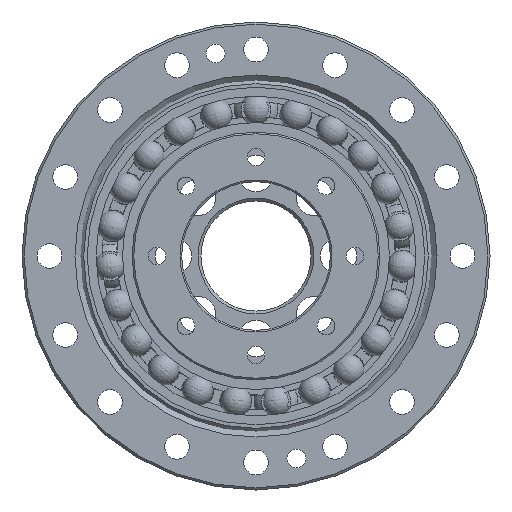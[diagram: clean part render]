
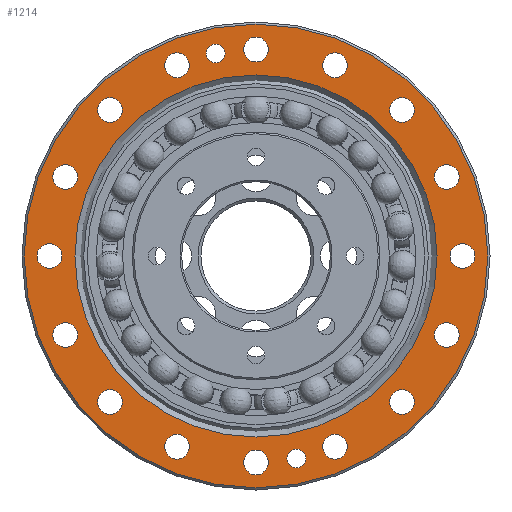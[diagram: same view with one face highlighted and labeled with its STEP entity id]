
A CAD part, left-side view. The second image highlights one B-rep face of the part: STEP entity #1214.
In plain terms, the highlighted planar face has unit normal (-1, 0, 0).
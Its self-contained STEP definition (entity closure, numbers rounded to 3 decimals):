
#1017=PLANE('',#5334);
#1214=ADVANCED_FACE('',(#1443,#1444,#1445,#1446,#1447,#1448,#1449,#1450,
#1451,#1452,#1453,#1454,#1455,#1456,#1457,#1458,#1459,#1460,#1461,#1462),
#1017,.F.);
#1443=FACE_BOUND('',#1899,.T.);
#1444=FACE_BOUND('',#1900,.T.);
#1445=FACE_BOUND('',#1901,.T.);
#1446=FACE_BOUND('',#1902,.T.);
#1447=FACE_BOUND('',#1903,.T.);
#1448=FACE_BOUND('',#1904,.T.);
#1449=FACE_BOUND('',#1905,.T.);
#1450=FACE_BOUND('',#1906,.T.);
#1451=FACE_BOUND('',#1907,.T.);
#1452=FACE_BOUND('',#1908,.T.);
#1453=FACE_BOUND('',#1909,.T.);
#1454=FACE_BOUND('',#1910,.T.);
#1455=FACE_BOUND('',#1911,.T.);
#1456=FACE_BOUND('',#1912,.T.);
#1457=FACE_BOUND('',#1913,.T.);
#1458=FACE_BOUND('',#1914,.T.);
#1459=FACE_BOUND('',#1915,.T.);
#1460=FACE_BOUND('',#1916,.T.);
#1461=FACE_BOUND('',#1917,.T.);
#1462=FACE_BOUND('',#1918,.T.);
#1899=EDGE_LOOP('',(#3171));
#1900=EDGE_LOOP('',(#3172));
#1901=EDGE_LOOP('',(#3173));
#1902=EDGE_LOOP('',(#3174));
#1903=EDGE_LOOP('',(#3175));
#1904=EDGE_LOOP('',(#3176));
#1905=EDGE_LOOP('',(#3177));
#1906=EDGE_LOOP('',(#3178));
#1907=EDGE_LOOP('',(#3179));
#1908=EDGE_LOOP('',(#3180));
#1909=EDGE_LOOP('',(#3181));
#1910=EDGE_LOOP('',(#3182));
#1911=EDGE_LOOP('',(#3183));
#1912=EDGE_LOOP('',(#3184));
#1913=EDGE_LOOP('',(#3185));
#1914=EDGE_LOOP('',(#3186));
#1915=EDGE_LOOP('',(#3187));
#1916=EDGE_LOOP('',(#3188));
#1917=EDGE_LOOP('',(#3189));
#1918=EDGE_LOOP('',(#3190));
#3171=ORIENTED_EDGE('',*,*,#4416,.T.);
#3172=ORIENTED_EDGE('',*,*,#4417,.T.);
#3173=ORIENTED_EDGE('',*,*,#4418,.T.);
#3174=ORIENTED_EDGE('',*,*,#4419,.T.);
#3175=ORIENTED_EDGE('',*,*,#4420,.T.);
#3176=ORIENTED_EDGE('',*,*,#4421,.T.);
#3177=ORIENTED_EDGE('',*,*,#4422,.T.);
#3178=ORIENTED_EDGE('',*,*,#4423,.T.);
#3179=ORIENTED_EDGE('',*,*,#4424,.T.);
#3180=ORIENTED_EDGE('',*,*,#4425,.T.);
#3181=ORIENTED_EDGE('',*,*,#4426,.T.);
#3182=ORIENTED_EDGE('',*,*,#4427,.T.);
#3183=ORIENTED_EDGE('',*,*,#4428,.T.);
#3184=ORIENTED_EDGE('',*,*,#4429,.T.);
#3185=ORIENTED_EDGE('',*,*,#4430,.T.);
#3186=ORIENTED_EDGE('',*,*,#4431,.T.);
#3187=ORIENTED_EDGE('',*,*,#4432,.T.);
#3188=ORIENTED_EDGE('',*,*,#4433,.T.);
#3189=ORIENTED_EDGE('',*,*,#4434,.T.);
#3190=ORIENTED_EDGE('',*,*,#4435,.T.);
#3758=VERTEX_POINT('',#11566);
#3759=VERTEX_POINT('',#11568);
#3760=VERTEX_POINT('',#11570);
#3761=VERTEX_POINT('',#11572);
#3762=VERTEX_POINT('',#11574);
#3763=VERTEX_POINT('',#11576);
#3764=VERTEX_POINT('',#11578);
#3765=VERTEX_POINT('',#11580);
#3766=VERTEX_POINT('',#11582);
#3767=VERTEX_POINT('',#11584);
#3768=VERTEX_POINT('',#11586);
#3769=VERTEX_POINT('',#11588);
#3770=VERTEX_POINT('',#11590);
#3771=VERTEX_POINT('',#11592);
#3772=VERTEX_POINT('',#11594);
#3773=VERTEX_POINT('',#11596);
#3774=VERTEX_POINT('',#11598);
#3775=VERTEX_POINT('',#11600);
#3776=VERTEX_POINT('',#11602);
#3777=VERTEX_POINT('',#11604);
#4416=EDGE_CURVE('',#3758,#3758,#4738,.T.);
#4417=EDGE_CURVE('',#3759,#3759,#4739,.T.);
#4418=EDGE_CURVE('',#3760,#3760,#4740,.T.);
#4419=EDGE_CURVE('',#3761,#3761,#4741,.T.);
#4420=EDGE_CURVE('',#3762,#3762,#4742,.T.);
#4421=EDGE_CURVE('',#3763,#3763,#4743,.T.);
#4422=EDGE_CURVE('',#3764,#3764,#4744,.T.);
#4423=EDGE_CURVE('',#3765,#3765,#4745,.T.);
#4424=EDGE_CURVE('',#3766,#3766,#4746,.T.);
#4425=EDGE_CURVE('',#3767,#3767,#4747,.T.);
#4426=EDGE_CURVE('',#3768,#3768,#4748,.T.);
#4427=EDGE_CURVE('',#3769,#3769,#4749,.T.);
#4428=EDGE_CURVE('',#3770,#3770,#4750,.T.);
#4429=EDGE_CURVE('',#3771,#3771,#4751,.T.);
#4430=EDGE_CURVE('',#3772,#3772,#4752,.T.);
#4431=EDGE_CURVE('',#3773,#3773,#4753,.T.);
#4432=EDGE_CURVE('',#3774,#3774,#4754,.T.);
#4433=EDGE_CURVE('',#3775,#3775,#4755,.T.);
#4434=EDGE_CURVE('',#3776,#3776,#4756,.T.);
#4435=EDGE_CURVE('',#3777,#3777,#4757,.T.);
#4738=CIRCLE('',#5314,32.882);
#4739=CIRCLE('',#5315,42.1);
#4740=CIRCLE('',#5316,1.7);
#4741=CIRCLE('',#5317,1.7);
#4742=CIRCLE('',#5318,2.25);
#4743=CIRCLE('',#5319,2.25);
#4744=CIRCLE('',#5320,2.25);
#4745=CIRCLE('',#5321,2.25);
#4746=CIRCLE('',#5322,2.25);
#4747=CIRCLE('',#5323,2.25);
#4748=CIRCLE('',#5324,2.25);
#4749=CIRCLE('',#5325,2.25);
#4750=CIRCLE('',#5326,2.25);
#4751=CIRCLE('',#5327,2.25);
#4752=CIRCLE('',#5328,2.25);
#4753=CIRCLE('',#5329,2.25);
#4754=CIRCLE('',#5330,2.25);
#4755=CIRCLE('',#5331,2.25);
#4756=CIRCLE('',#5332,2.25);
#4757=CIRCLE('',#5333,2.25);
#5314=AXIS2_PLACEMENT_3D('',#11565,#6357,#6358);
#5315=AXIS2_PLACEMENT_3D('',#11567,#6359,#6360);
#5316=AXIS2_PLACEMENT_3D('',#11569,#6361,#6362);
#5317=AXIS2_PLACEMENT_3D('',#11571,#6363,#6364);
#5318=AXIS2_PLACEMENT_3D('',#11573,#6365,#6366);
#5319=AXIS2_PLACEMENT_3D('',#11575,#6367,#6368);
#5320=AXIS2_PLACEMENT_3D('',#11577,#6369,#6370);
#5321=AXIS2_PLACEMENT_3D('',#11579,#6371,#6372);
#5322=AXIS2_PLACEMENT_3D('',#11581,#6373,#6374);
#5323=AXIS2_PLACEMENT_3D('',#11583,#6375,#6376);
#5324=AXIS2_PLACEMENT_3D('',#11585,#6377,#6378);
#5325=AXIS2_PLACEMENT_3D('',#11587,#6379,#6380);
#5326=AXIS2_PLACEMENT_3D('',#11589,#6381,#6382);
#5327=AXIS2_PLACEMENT_3D('',#11591,#6383,#6384);
#5328=AXIS2_PLACEMENT_3D('',#11593,#6385,#6386);
#5329=AXIS2_PLACEMENT_3D('',#11595,#6387,#6388);
#5330=AXIS2_PLACEMENT_3D('',#11597,#6389,#6390);
#5331=AXIS2_PLACEMENT_3D('',#11599,#6391,#6392);
#5332=AXIS2_PLACEMENT_3D('',#11601,#6393,#6394);
#5333=AXIS2_PLACEMENT_3D('',#11603,#6395,#6396);
#5334=AXIS2_PLACEMENT_3D('',#11605,#6397,#6398);
#6357=DIRECTION('',(1.,0.,0.));
#6358=DIRECTION('',(0.,0.,-1.));
#6359=DIRECTION('',(-1.,0.,0.));
#6360=DIRECTION('',(0.,0.,-1.));
#6361=DIRECTION('',(1.,0.,0.));
#6362=DIRECTION('',(0.,0.,-1.));
#6363=DIRECTION('',(1.,0.,0.));
#6364=DIRECTION('',(0.,0.,-1.));
#6365=DIRECTION('',(1.,0.,0.));
#6366=DIRECTION('',(0.,0.,-1.));
#6367=DIRECTION('',(1.,0.,0.));
#6368=DIRECTION('',(0.,0.,-1.));
#6369=DIRECTION('',(1.,0.,0.));
#6370=DIRECTION('',(0.,0.,-1.));
#6371=DIRECTION('',(1.,0.,0.));
#6372=DIRECTION('',(0.,0.,-1.));
#6373=DIRECTION('',(1.,0.,0.));
#6374=DIRECTION('',(0.,0.,-1.));
#6375=DIRECTION('',(1.,0.,0.));
#6376=DIRECTION('',(0.,0.,-1.));
#6377=DIRECTION('',(1.,0.,0.));
#6378=DIRECTION('',(0.,0.,-1.));
#6379=DIRECTION('',(1.,0.,0.));
#6380=DIRECTION('',(0.,0.,-1.));
#6381=DIRECTION('',(1.,0.,0.));
#6382=DIRECTION('',(0.,0.,-1.));
#6383=DIRECTION('',(1.,0.,0.));
#6384=DIRECTION('',(0.,0.,-1.));
#6385=DIRECTION('',(1.,0.,0.));
#6386=DIRECTION('',(0.,0.,-1.));
#6387=DIRECTION('',(1.,0.,0.));
#6388=DIRECTION('',(0.,0.,-1.));
#6389=DIRECTION('',(1.,0.,0.));
#6390=DIRECTION('',(0.,0.,-1.));
#6391=DIRECTION('',(1.,0.,0.));
#6392=DIRECTION('',(0.,0.,-1.));
#6393=DIRECTION('',(1.,0.,0.));
#6394=DIRECTION('',(0.,0.,-1.));
#6395=DIRECTION('',(1.,0.,0.));
#6396=DIRECTION('',(0.,0.,-1.));
#6397=DIRECTION('',(1.,0.,0.));
#6398=DIRECTION('',(0.,0.,-1.));
#11565=CARTESIAN_POINT('',(0.,0.,0.));
#11566=CARTESIAN_POINT('',(0.,0.,-32.882));
#11567=CARTESIAN_POINT('',(0.,0.,0.));
#11568=CARTESIAN_POINT('',(0.,0.,-42.1));
#11569=CARTESIAN_POINT('',(0.,-7.316,-36.779));
#11570=CARTESIAN_POINT('',(0.,-7.316,-38.479));
#11571=CARTESIAN_POINT('',(0.,7.316,36.779));
#11572=CARTESIAN_POINT('',(0.,7.316,35.079));
#11573=CARTESIAN_POINT('',(0.,-26.517,26.517));
#11574=CARTESIAN_POINT('',(0.,-26.517,24.267));
#11575=CARTESIAN_POINT('',(0.,-14.351,34.645));
#11576=CARTESIAN_POINT('',(0.,-14.351,32.395));
#11577=CARTESIAN_POINT('',(0.,0.,37.5));
#11578=CARTESIAN_POINT('',(0.,0.,35.25));
#11579=CARTESIAN_POINT('',(0.,14.351,34.645));
#11580=CARTESIAN_POINT('',(0.,14.351,32.395));
#11581=CARTESIAN_POINT('',(0.,26.517,26.517));
#11582=CARTESIAN_POINT('',(0.,26.517,24.267));
#11583=CARTESIAN_POINT('',(0.,34.645,14.351));
#11584=CARTESIAN_POINT('',(0.,34.645,12.101));
#11585=CARTESIAN_POINT('',(0.,37.5,0.));
#11586=CARTESIAN_POINT('',(0.,37.5,-2.25));
#11587=CARTESIAN_POINT('',(0.,34.645,-14.351));
#11588=CARTESIAN_POINT('',(0.,34.645,-16.601));
#11589=CARTESIAN_POINT('',(0.,26.517,-26.517));
#11590=CARTESIAN_POINT('',(0.,26.517,-28.767));
#11591=CARTESIAN_POINT('',(0.,14.351,-34.645));
#11592=CARTESIAN_POINT('',(0.,14.351,-36.895));
#11593=CARTESIAN_POINT('',(0.,0.,-37.5));
#11594=CARTESIAN_POINT('',(0.,0.,-39.75));
#11595=CARTESIAN_POINT('',(0.,-14.351,-34.645));
#11596=CARTESIAN_POINT('',(0.,-14.351,-36.895));
#11597=CARTESIAN_POINT('',(0.,-26.517,-26.517));
#11598=CARTESIAN_POINT('',(0.,-26.517,-28.767));
#11599=CARTESIAN_POINT('',(0.,-34.645,-14.351));
#11600=CARTESIAN_POINT('',(0.,-34.645,-16.601));
#11601=CARTESIAN_POINT('',(0.,-37.5,0.));
#11602=CARTESIAN_POINT('',(0.,-37.5,-2.25));
#11603=CARTESIAN_POINT('',(0.,-34.645,14.351));
#11604=CARTESIAN_POINT('',(0.,-34.645,12.101));
#11605=CARTESIAN_POINT('',(0.,0.,42.5));
